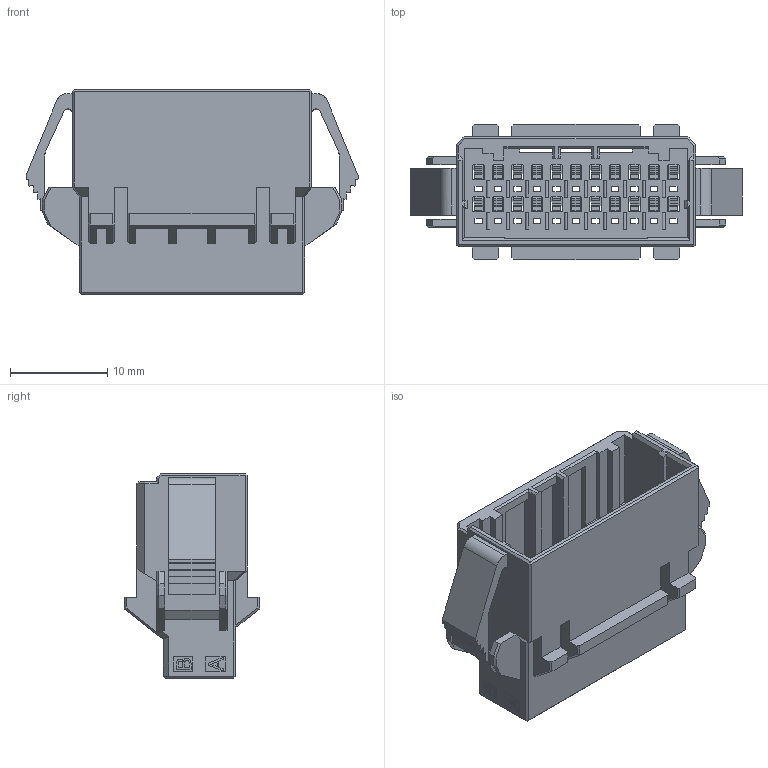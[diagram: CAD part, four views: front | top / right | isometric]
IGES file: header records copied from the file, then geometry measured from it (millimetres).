
Start section: ZWSOFT
Global section: file name: WD2000-2HG11B001W.igs; native system: ZW3D; preprocessor: 1.0; author: ZW3D; organization: ZWSOFT; date: 231204.153611; units: millimetre
Bounding box: 34.1 x 13.9 x 21 mm (x, y, z)
Surface area: 5812.1 mm2 (no closed solid volume)
Topology: 0 solids, 0 shells, 1655 faces, 9306 edges, 9302 vertices
Faces by surface type: bspline 1655
